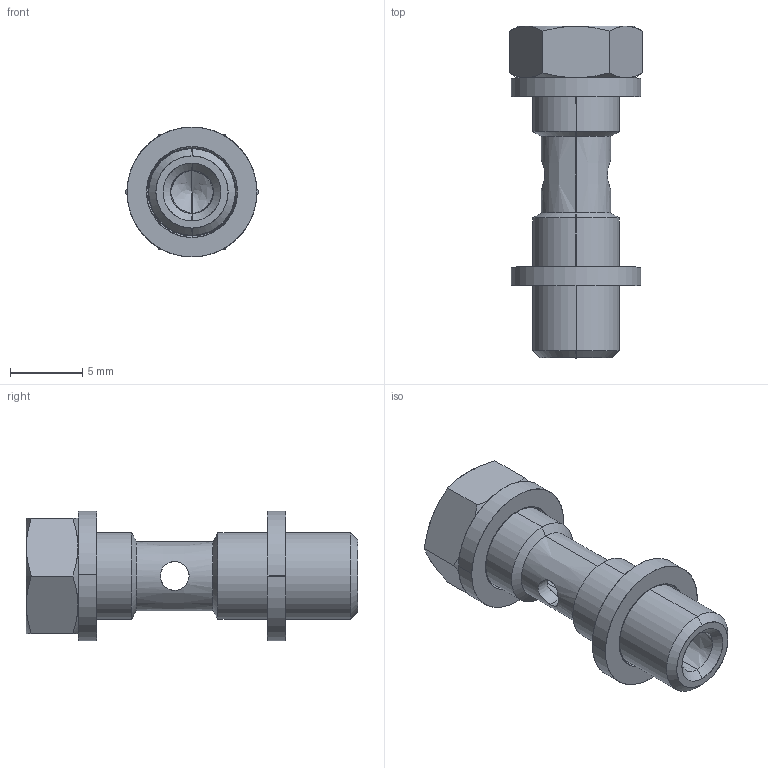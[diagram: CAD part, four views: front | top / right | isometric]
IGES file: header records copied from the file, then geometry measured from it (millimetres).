
Start section: SolidWorks IGES file using analytic representation for surfaces
Global section: file name: K:\Disegni Esecutivi\Serie 50000\ASSIEMI\51410\ASSIEMI_PIENI_51410\5141000012.IGS; native system: SolidWorks 2007; preprocessor: SolidWorks 2007; author: cad02; date: 071011.164210; units: millimetre
Bounding box: 9.24 x 23 x 9 mm (x, y, z)
Surface area: 1009.5 mm2 (no closed solid volume)
Topology: 0 solids, 0 shells, 103 faces, 1194 edges, 1192 vertices
Faces by surface type: bspline 53, revolution 50
